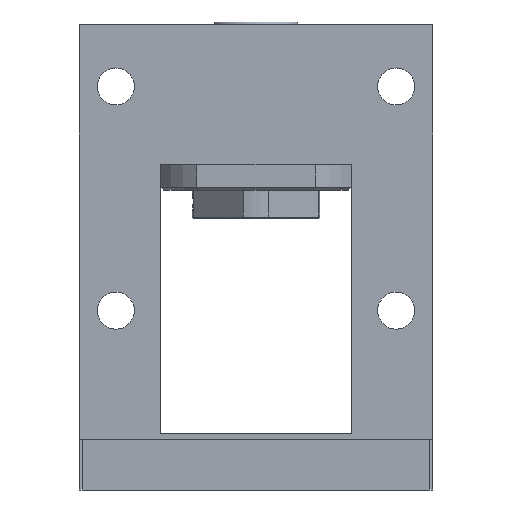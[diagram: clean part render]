
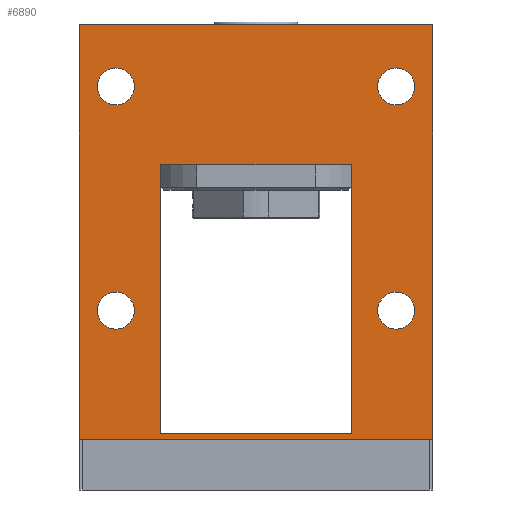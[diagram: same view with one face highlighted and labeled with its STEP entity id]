
A CAD part, front view. The second image highlights one B-rep face of the part: STEP entity #6890.
In plain terms, the highlighted planar face has unit normal (0, -1, 0).
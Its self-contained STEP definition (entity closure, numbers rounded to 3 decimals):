
#1 = EDGE_CURVE ( 'NONE', #7398, #4041, #6797, .T. ) ;
#72 = VERTEX_POINT ( 'NONE', #5926 ) ;
#88 = CARTESIAN_POINT ( 'NONE',  ( 21.7, -20., -46. ) ) ;
#131 = FACE_BOUND ( 'NONE', #5195, .T. ) ;
#135 = DIRECTION ( 'NONE',  ( 0., 0., 1. ) ) ;
#154 = EDGE_CURVE ( 'NONE', #5189, #1699, #5806, .T. ) ;
#318 = DIRECTION ( 'NONE',  ( 0., -1., 0. ) ) ;
#321 = FACE_OUTER_BOUND ( 'NONE', #4159, .T. ) ;
#417 = DIRECTION ( 'NONE',  ( 0., 0., 1. ) ) ;
#430 = CARTESIAN_POINT ( 'NONE',  ( 25., -20., -46. ) ) ;
#432 = VECTOR ( 'NONE', #4165, 1000. ) ;
#542 = ORIENTED_EDGE ( 'NONE', *, *, #154, .F. ) ;
#671 = CARTESIAN_POINT ( 'NONE',  ( 31.5, -20., -68. ) ) ;
#685 = EDGE_CURVE ( 'NONE', #747, #6075, #3954, .T. ) ;
#728 = VERTEX_POINT ( 'NONE', #6921 ) ;
#747 = VERTEX_POINT ( 'NONE', #3574 ) ;
#814 = CIRCLE ( 'NONE', #4091, 3.3 ) ;
#901 = LINE ( 'NONE', #7004, #7368 ) ;
#1083 = EDGE_CURVE ( 'NONE', #6786, #3561, #1415, .T. ) ;
#1188 = CARTESIAN_POINT ( 'NONE',  ( 28.3, -20., -6. ) ) ;
#1207 = EDGE_CURVE ( 'NONE', #1699, #5189, #814, .T. ) ;
#1346 = CARTESIAN_POINT ( 'NONE',  ( 25., -20., -6. ) ) ;
#1369 = EDGE_CURVE ( 'NONE', #5499, #7398, #7583, .T. ) ;
#1415 = CIRCLE ( 'NONE', #6755, 3.3 ) ;
#1429 = ORIENTED_EDGE ( 'NONE', *, *, #685, .T. ) ;
#1490 = CARTESIAN_POINT ( 'NONE',  ( -28.3, -20., -6. ) ) ;
#1527 = CARTESIAN_POINT ( 'NONE',  ( -28.3, -20., -46. ) ) ;
#1610 = EDGE_LOOP ( 'NONE', ( #6592, #1811 ) ) ;
#1633 = AXIS2_PLACEMENT_3D ( 'NONE', #2903, #7295, #3527 ) ;
#1656 = CARTESIAN_POINT ( 'NONE',  ( -46.482, -20., -68. ) ) ;
#1686 = CARTESIAN_POINT ( 'NONE',  ( 17., -20., 13.623 ) ) ;
#1699 = VERTEX_POINT ( 'NONE', #3048 ) ;
#1712 = AXIS2_PLACEMENT_3D ( 'NONE', #7463, #3691, #8107 ) ;
#1786 = FACE_BOUND ( 'NONE', #6581, .T. ) ;
#1811 = ORIENTED_EDGE ( 'NONE', *, *, #6276, .T. ) ;
#1837 = DIRECTION ( 'NONE',  ( 0., 1., 0. ) ) ;
#1863 = AXIS2_PLACEMENT_3D ( 'NONE', #4070, #318, #4675 ) ;
#1871 = LINE ( 'NONE', #5291, #3343 ) ;
#1965 = DIRECTION ( 'NONE',  ( 0., 0., 1. ) ) ;
#2192 = DIRECTION ( 'NONE',  ( 0., 0., 1. ) ) ;
#2194 = ORIENTED_EDGE ( 'NONE', *, *, #2314, .T. ) ;
#2197 = EDGE_CURVE ( 'NONE', #2408, #3647, #6443, .T. ) ;
#2314 = EDGE_CURVE ( 'NONE', #72, #747, #4004, .T. ) ;
#2408 = VERTEX_POINT ( 'NONE', #1188 ) ;
#2479 = EDGE_CURVE ( 'NONE', #6065, #3027, #4289, .T. ) ;
#2789 = ORIENTED_EDGE ( 'NONE', *, *, #4696, .F. ) ;
#2796 = CARTESIAN_POINT ( 'NONE',  ( -31.5, -20., 5. ) ) ;
#2903 = CARTESIAN_POINT ( 'NONE',  ( -25., -20., -6. ) ) ;
#2916 = DIRECTION ( 'NONE',  ( 0., 0., 1. ) ) ;
#2928 = EDGE_CURVE ( 'NONE', #728, #4041, #7625, .T. ) ;
#2996 = ORIENTED_EDGE ( 'NONE', *, *, #7573, .T. ) ;
#3027 = VERTEX_POINT ( 'NONE', #5054 ) ;
#3048 = CARTESIAN_POINT ( 'NONE',  ( 28.3, -20., -46. ) ) ;
#3083 = ORIENTED_EDGE ( 'NONE', *, *, #2928, .F. ) ;
#3231 = CARTESIAN_POINT ( 'NONE',  ( -21.7, -20., -6. ) ) ;
#3282 = ORIENTED_EDGE ( 'NONE', *, *, #1, .T. ) ;
#3343 = VECTOR ( 'NONE', #7813, 1000. ) ;
#3429 = CARTESIAN_POINT ( 'NONE',  ( 31.5, -20., -69. ) ) ;
#3445 = FACE_BOUND ( 'NONE', #1610, .T. ) ;
#3527 = DIRECTION ( 'NONE',  ( 0., 0., 1. ) ) ;
#3530 = CIRCLE ( 'NONE', #5030, 3.3 ) ;
#3531 = PLANE ( 'NONE',  #5616 ) ;
#3533 = CARTESIAN_POINT ( 'NONE',  ( 21.7, -20., -6. ) ) ;
#3561 = VERTEX_POINT ( 'NONE', #3231 ) ;
#3574 = CARTESIAN_POINT ( 'NONE',  ( 17., -20., -68. ) ) ;
#3647 = VERTEX_POINT ( 'NONE', #3533 ) ;
#3656 = ORIENTED_EDGE ( 'NONE', *, *, #5059, .T. ) ;
#3691 = DIRECTION ( 'NONE',  ( 0., 1., 0. ) ) ;
#3778 = DIRECTION ( 'NONE',  ( 0., 0., 1. ) ) ;
#3796 = VECTOR ( 'NONE', #4171, 1000. ) ;
#3852 = ORIENTED_EDGE ( 'NONE', *, *, #7233, .F. ) ;
#3954 = LINE ( 'NONE', #8098, #432 ) ;
#4004 = LINE ( 'NONE', #1686, #3796 ) ;
#4041 = VERTEX_POINT ( 'NONE', #2796 ) ;
#4046 = VECTOR ( 'NONE', #3778, 1000. ) ;
#4070 = CARTESIAN_POINT ( 'NONE',  ( 25., -20., -6. ) ) ;
#4091 = AXIS2_PLACEMENT_3D ( 'NONE', #4413, #4466, #2192 ) ;
#4099 = ORIENTED_EDGE ( 'NONE', *, *, #1207, .F. ) ;
#4159 = EDGE_LOOP ( 'NONE', ( #3083, #4727, #8092, #3282 ) ) ;
#4165 = DIRECTION ( 'NONE',  ( -1., 0., 0. ) ) ;
#4166 = DIRECTION ( 'NONE',  ( 0., 1., 0. ) ) ;
#4171 = DIRECTION ( 'NONE',  ( 0., 0., -1. ) ) ;
#4177 = CARTESIAN_POINT ( 'NONE',  ( -31.5, -20., -68. ) ) ;
#4282 = VECTOR ( 'NONE', #2916, 1000. ) ;
#4289 = CIRCLE ( 'NONE', #1712, 3.3 ) ;
#4310 = DIRECTION ( 'NONE',  ( -1., 0., 0. ) ) ;
#4413 = CARTESIAN_POINT ( 'NONE',  ( 25., -20., -46. ) ) ;
#4466 = DIRECTION ( 'NONE',  ( 0., -1., 0. ) ) ;
#4489 = ORIENTED_EDGE ( 'NONE', *, *, #2197, .F. ) ;
#4663 = CARTESIAN_POINT ( 'NONE',  ( 31.5, -20., 5. ) ) ;
#4675 = DIRECTION ( 'NONE',  ( 0., 0., 1. ) ) ;
#4696 = EDGE_CURVE ( 'NONE', #3647, #2408, #3530, .T. ) ;
#4727 = ORIENTED_EDGE ( 'NONE', *, *, #4973, .F. ) ;
#4796 = CARTESIAN_POINT ( 'NONE',  ( -38.667, -20., -69. ) ) ;
#4884 = CARTESIAN_POINT ( 'NONE',  ( -25., -20., -6. ) ) ;
#4923 = DIRECTION ( 'NONE',  ( 0., 1., 0. ) ) ;
#4973 = EDGE_CURVE ( 'NONE', #5499, #728, #6752, .T. ) ;
#5024 = CARTESIAN_POINT ( 'NONE',  ( -17., -20., -20. ) ) ;
#5030 = AXIS2_PLACEMENT_3D ( 'NONE', #1346, #5704, #1965 ) ;
#5054 = CARTESIAN_POINT ( 'NONE',  ( -21.7, -20., -46. ) ) ;
#5059 = EDGE_CURVE ( 'NONE', #3027, #6065, #7456, .T. ) ;
#5091 = FACE_BOUND ( 'NONE', #6576, .T. ) ;
#5110 = ORIENTED_EDGE ( 'NONE', *, *, #2479, .T. ) ;
#5119 = VECTOR ( 'NONE', #4310, 1000. ) ;
#5189 = VERTEX_POINT ( 'NONE', #88 ) ;
#5195 = EDGE_LOOP ( 'NONE', ( #542, #4099 ) ) ;
#5291 = CARTESIAN_POINT ( 'NONE',  ( 0., -20., -20. ) ) ;
#5310 = DIRECTION ( 'NONE',  ( 0., 0., 1. ) ) ;
#5332 = AXIS2_PLACEMENT_3D ( 'NONE', #5562, #1837, #6194 ) ;
#5432 = DIRECTION ( 'NONE',  ( -1., 0., 0. ) ) ;
#5499 = VERTEX_POINT ( 'NONE', #3429 ) ;
#5536 = AXIS2_PLACEMENT_3D ( 'NONE', #430, #7999, #135 ) ;
#5562 = CARTESIAN_POINT ( 'NONE',  ( -25., -20., -46. ) ) ;
#5616 = AXIS2_PLACEMENT_3D ( 'NONE', #1656, #4166, #417 ) ;
#5704 = DIRECTION ( 'NONE',  ( 0., -1., 0. ) ) ;
#5806 = CIRCLE ( 'NONE', #5536, 3.3 ) ;
#5926 = CARTESIAN_POINT ( 'NONE',  ( 17., -20., -20. ) ) ;
#6065 = VERTEX_POINT ( 'NONE', #1527 ) ;
#6075 = VERTEX_POINT ( 'NONE', #7119 ) ;
#6194 = DIRECTION ( 'NONE',  ( 0., 0., 1. ) ) ;
#6276 = EDGE_CURVE ( 'NONE', #3561, #6786, #6727, .T. ) ;
#6443 = CIRCLE ( 'NONE', #1863, 3.3 ) ;
#6468 = CARTESIAN_POINT ( 'NONE',  ( -46.482, -20., 5. ) ) ;
#6567 = FACE_BOUND ( 'NONE', #7490, .T. ) ;
#6576 = EDGE_LOOP ( 'NONE', ( #2789, #4489 ) ) ;
#6581 = EDGE_LOOP ( 'NONE', ( #5110, #3656 ) ) ;
#6592 = ORIENTED_EDGE ( 'NONE', *, *, #1083, .T. ) ;
#6727 = CIRCLE ( 'NONE', #1633, 3.3 ) ;
#6752 = LINE ( 'NONE', #4796, #8051 ) ;
#6755 = AXIS2_PLACEMENT_3D ( 'NONE', #4884, #4923, #5310 ) ;
#6786 = VERTEX_POINT ( 'NONE', #1490 ) ;
#6797 = LINE ( 'NONE', #6468, #5119 ) ;
#6890 = ADVANCED_FACE ( 'NONE', ( #321, #3445, #1786, #131, #5091, #6567 ), #3531, .F. ) ;
#6921 = CARTESIAN_POINT ( 'NONE',  ( -31.5, -20., -69. ) ) ;
#7004 = CARTESIAN_POINT ( 'NONE',  ( -17., -20., 13.623 ) ) ;
#7078 = VERTEX_POINT ( 'NONE', #5024 ) ;
#7119 = CARTESIAN_POINT ( 'NONE',  ( -17., -20., -68. ) ) ;
#7233 = EDGE_CURVE ( 'NONE', #7078, #6075, #901, .T. ) ;
#7295 = DIRECTION ( 'NONE',  ( 0., 1., 0. ) ) ;
#7368 = VECTOR ( 'NONE', #7674, 1000. ) ;
#7398 = VERTEX_POINT ( 'NONE', #4663 ) ;
#7456 = CIRCLE ( 'NONE', #5332, 3.3 ) ;
#7463 = CARTESIAN_POINT ( 'NONE',  ( -25., -20., -46. ) ) ;
#7490 = EDGE_LOOP ( 'NONE', ( #1429, #3852, #2996, #2194 ) ) ;
#7573 = EDGE_CURVE ( 'NONE', #7078, #72, #1871, .T. ) ;
#7583 = LINE ( 'NONE', #671, #4046 ) ;
#7625 = LINE ( 'NONE', #4177, #4282 ) ;
#7674 = DIRECTION ( 'NONE',  ( 0., 0., -1. ) ) ;
#7813 = DIRECTION ( 'NONE',  ( 1., 0., 0. ) ) ;
#7999 = DIRECTION ( 'NONE',  ( 0., -1., 0. ) ) ;
#8051 = VECTOR ( 'NONE', #5432, 1000. ) ;
#8092 = ORIENTED_EDGE ( 'NONE', *, *, #1369, .T. ) ;
#8098 = CARTESIAN_POINT ( 'NONE',  ( -38.667, -20., -68. ) ) ;
#8107 = DIRECTION ( 'NONE',  ( 0., 0., 1. ) ) ;
